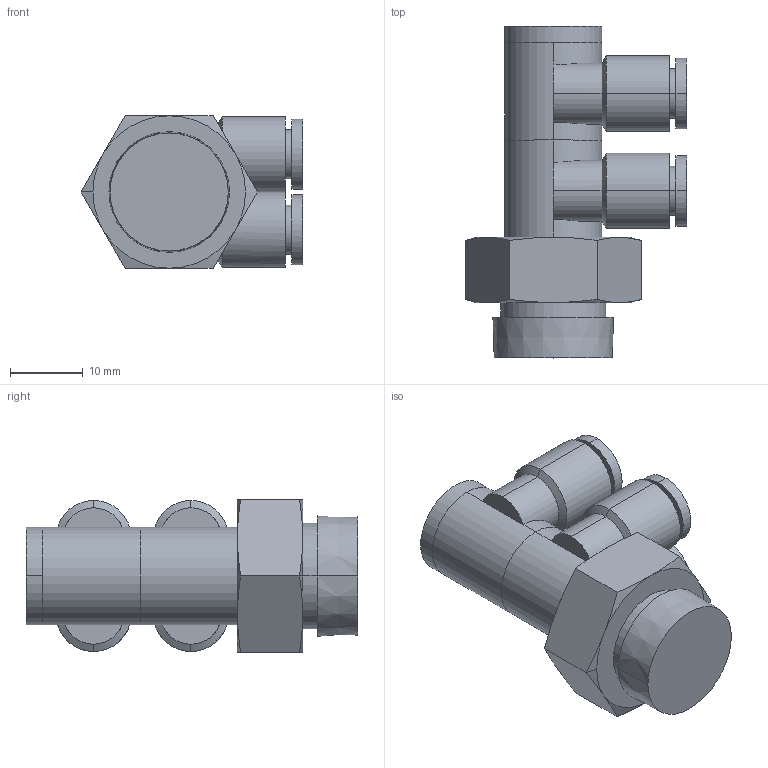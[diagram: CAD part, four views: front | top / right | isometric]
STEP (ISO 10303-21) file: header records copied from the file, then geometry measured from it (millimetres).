
FILE_DESCRIPTION (( 'STEP AP203' ), '1' );
FILE_NAME ('FZD06-03.STEP', '2020-05-11T14:47:32', ( '' ), ( '' ), 'SwSTEP 2.0', 'SolidWorks 2019', '' );
FILE_SCHEMA (( 'CONFIG_CONTROL_DESIGN' ));
Length unit declared in the file: millimetre
Products named in the file (1): FZD06-03
Bounding box: 30.52 x 45.7 x 21 mm (x, y, z)
Volume: 11963.5 mm3; surface area: 8504.1 mm2
Topology: 3 solids, 3 shells, 118 faces, 274 edges, 172 vertices
Faces by surface type: cylinder 52, plane 42, cone 24
Entity records: 4327 total; most frequent: CARTESIAN_POINT 1521, DIRECTION 592, ORIENTED_EDGE 548, EDGE_CURVE 274, AXIS2_PLACEMENT_3D 247, VERTEX_POINT 172, EDGE_LOOP 140, CIRCLE 128
